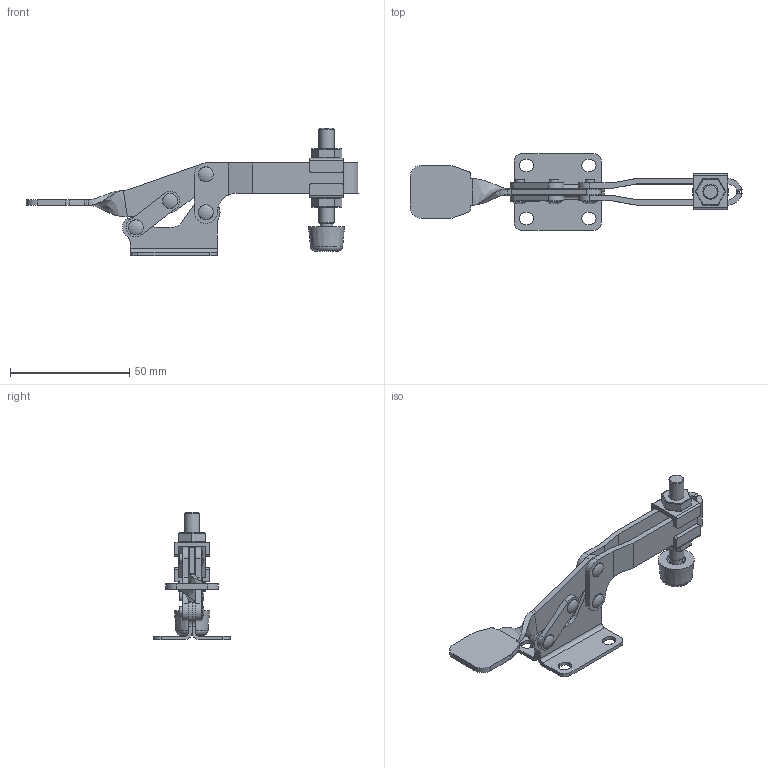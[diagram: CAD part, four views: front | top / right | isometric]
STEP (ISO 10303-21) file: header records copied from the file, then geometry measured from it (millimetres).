
FILE_DESCRIPTION(/* description */ (''),/* implementation_level */ '2;1');
FILE_NAME(/* name */ 'h-201',/* time_stamp */ '2004-12-16T01:06:41-05:00',/* author */ (''),/* organization */ (''),/* preprocessor_version */ 'ST-DEVELOPER v9',/* originating_system */ 'EDS PLM SOLUTIONS - UNIGRAPHICS NX 2.0',/* authorisation */ '');
FILE_SCHEMA (('AUTOMOTIVE_DESIGN { 1 0 10303 214 0 1 1 1 }'));
Length unit declared in the file: inch
Products named in the file (1): mfurED7Asron
Bounding box: 139.26 x 32.11 x 53.44 mm (x, y, z)
Volume: 16107.5 mm3; surface area: 18783.3 mm2
Topology: 17 solids, 17 shells, 287 faces, 712 edges, 466 vertices
Faces by surface type: cylinder 131, plane 126, torus 16, cone 6, sphere 4, bspline 4
Full cylindrical faces by diameter (mm): 2.769 x4, 3.632 x4, 3.937 x4, 4.013 x6, 4.064 x4, 5.159 x1, 6.35 x3, 6.756 x2, 7.95 x1, 11.887 x1
Entity records: 8585 total; most frequent: CARTESIAN_POINT 1712, DIRECTION 1440, ORIENTED_EDGE 1276, EDGE_CURVE 638, AXIS2_PLACEMENT_3D 544, VERTEX_POINT 448, EDGE_LOOP 390, LINE 352
